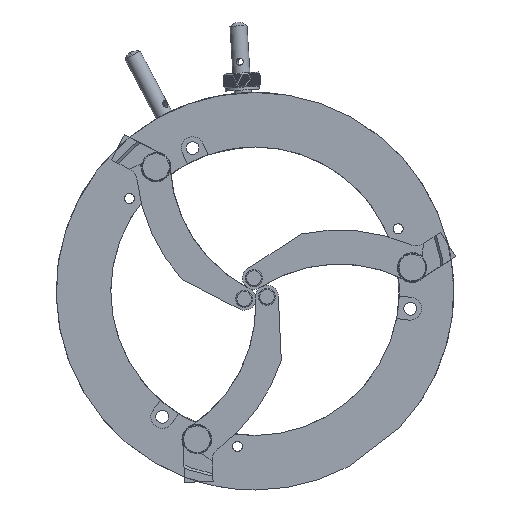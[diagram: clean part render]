
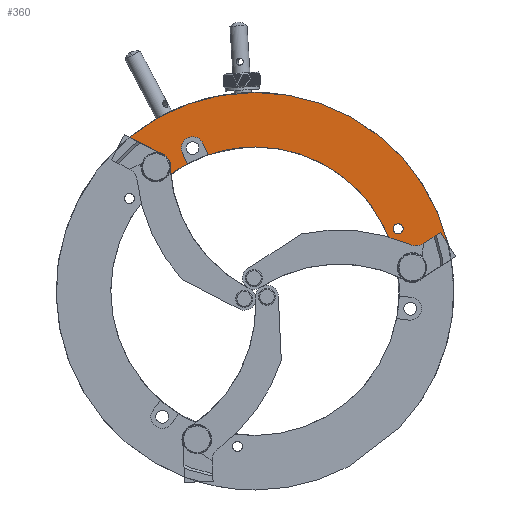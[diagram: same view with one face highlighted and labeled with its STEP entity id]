
A CAD part, left-side view. The second image highlights one B-rep face of the part: STEP entity #360.
In plain terms, the highlighted planar face has unit normal (-1, 0, 0).
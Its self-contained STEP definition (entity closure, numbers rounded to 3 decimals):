
#119 = EDGE_CURVE ( 'NONE', #510, #120, #1672, .T. ) ;
#120 = VERTEX_POINT ( 'NONE', #1662 ) ;
#130 = EDGE_CURVE ( 'NONE', #9196, #9184, #1660, .T. ) ;
#175 = VERTEX_POINT ( 'NONE', #1699 ) ;
#177 = EDGE_CURVE ( 'NONE', #9420, #175, #1698, .T. ) ;
#183 = EDGE_CURVE ( 'NONE', #120, #184, #2113, .T. ) ;
#184 = VERTEX_POINT ( 'NONE', #2109 ) ;
#325 = EDGE_LOOP ( 'NONE', ( #473, #474, #475, #476, #477, #638, #738, #733, #854, #348, #349, #350, #351, #352, #353 ) ) ;
#326 = EDGE_LOOP ( 'NONE', ( #327, #328 ) ) ;
#327 = ORIENTED_EDGE ( 'NONE', *, *, #9200, .T. ) ;
#328 = ORIENTED_EDGE ( 'NONE', *, *, #130, .T. ) ;
#340 = VERTEX_POINT ( 'NONE', #2469 ) ;
#342 = EDGE_CURVE ( 'NONE', #343, #340, #2468, .T. ) ;
#343 = VERTEX_POINT ( 'NONE', #2360 ) ;
#348 = ORIENTED_EDGE ( 'NONE', *, *, #362, .T. ) ;
#349 = ORIENTED_EDGE ( 'NONE', *, *, #512, .T. ) ;
#350 = ORIENTED_EDGE ( 'NONE', *, *, #119, .T. ) ;
#351 = ORIENTED_EDGE ( 'NONE', *, *, #183, .T. ) ;
#352 = ORIENTED_EDGE ( 'NONE', *, *, #562, .T. ) ;
#353 = ORIENTED_EDGE ( 'NONE', *, *, #9055, .T. ) ;
#360 = ADVANCED_FACE ( 'NONE', ( #2345, #2344 ), #2343, .T. ) ;
#362 = EDGE_CURVE ( 'NONE', #9157, #391, #2540, .T. ) ;
#367 = VERTEX_POINT ( 'NONE', #2531 ) ;
#371 = VERTEX_POINT ( 'NONE', #2557 ) ;
#380 = EDGE_CURVE ( 'NONE', #367, #343, #2546, .T. ) ;
#391 = VERTEX_POINT ( 'NONE', #2432 ) ;
#473 = ORIENTED_EDGE ( 'NONE', *, *, #558, .T. ) ;
#474 = ORIENTED_EDGE ( 'NONE', *, *, #380, .T. ) ;
#475 = ORIENTED_EDGE ( 'NONE', *, *, #342, .T. ) ;
#476 = ORIENTED_EDGE ( 'NONE', *, *, #580, .T. ) ;
#477 = ORIENTED_EDGE ( 'NONE', *, *, #478, .F. ) ;
#478 = EDGE_CURVE ( 'NONE', #9421, #371, #2335, .T. ) ;
#510 = VERTEX_POINT ( 'NONE', #2305 ) ;
#512 = EDGE_CURVE ( 'NONE', #391, #510, #2529, .T. ) ;
#513 = EDGE_CURVE ( 'NONE', #175, #9179, #2525, .T. ) ;
#558 = EDGE_CURVE ( 'NONE', #8963, #367, #2767, .T. ) ;
#562 = EDGE_CURVE ( 'NONE', #184, #9056, #2688, .T. ) ;
#580 = EDGE_CURVE ( 'NONE', #340, #371, #2736, .T. ) ;
#638 = ORIENTED_EDGE ( 'NONE', *, *, #9419, .F. ) ;
#733 = ORIENTED_EDGE ( 'NONE', *, *, #513, .T. ) ;
#738 = ORIENTED_EDGE ( 'NONE', *, *, #177, .T. ) ;
#854 = ORIENTED_EDGE ( 'NONE', *, *, #9172, .T. ) ;
#1613 = DIRECTION ( 'NONE',  ( 0., 0., 1. ) ) ;
#1614 = DIRECTION ( 'NONE',  ( 1., 0., 0. ) ) ;
#1615 = CARTESIAN_POINT ( 'NONE',  ( -16.059, -76.778, 21.991 ) ) ;
#1659 = AXIS2_PLACEMENT_3D ( 'NONE', #1615, #1614, #1613 ) ;
#1660 = CIRCLE ( 'NONE', #1659, 1.75 ) ;
#1662 = CARTESIAN_POINT ( 'NONE',  ( -16.059, -8.041, 52.012 ) ) ;
#1663 = DIRECTION ( 'NONE',  ( 0., 0., -1. ) ) ;
#1664 = DIRECTION ( 'NONE',  ( 1., 0., 0. ) ) ;
#1665 = CARTESIAN_POINT ( 'NONE',  ( -16.059, -4.375, 50.412 ) ) ;
#1666 = AXIS2_PLACEMENT_3D ( 'NONE', #1665, #1664, #1663 ) ;
#1672 = CIRCLE ( 'NONE', #1666, 4. ) ;
#1695 = DIRECTION ( 'NONE',  ( 0., -0.889, -0.459 ) ) ;
#1696 = VECTOR ( 'NONE', #1695, 1000. ) ;
#1697 = CARTESIAN_POINT ( 'NONE',  ( -16.059, 17.89, 54.235 ) ) ;
#1698 = LINE ( 'NONE', #1697, #1696 ) ;
#1699 = CARTESIAN_POINT ( 'NONE',  ( -16.059, 7.676, 48.962 ) ) ;
#2109 = CARTESIAN_POINT ( 'NONE',  ( -16.059, -9.784, 48.017 ) ) ;
#2110 = DIRECTION ( 'NONE',  ( 0., -0.4, -0.917 ) ) ;
#2111 = VECTOR ( 'NONE', #2110, 1000. ) ;
#2112 = CARTESIAN_POINT ( 'NONE',  ( -16.059, -8.041, 52.012 ) ) ;
#2113 = LINE ( 'NONE', #2112, #2111 ) ;
#2305 = CARTESIAN_POINT ( 'NONE',  ( -16.059, -0.708, 48.813 ) ) ;
#2331 = DIRECTION ( 'NONE',  ( 0., 0., -1. ) ) ;
#2332 = DIRECTION ( 'NONE',  ( 1., 0., 0. ) ) ;
#2333 = CARTESIAN_POINT ( 'NONE',  ( -16.059, -26.366, 0. ) ) ;
#2334 = AXIS2_PLACEMENT_3D ( 'NONE', #2333, #2332, #2331 ) ;
#2335 = CIRCLE ( 'NONE', #2334, 70. ) ;
#2341 = CARTESIAN_POINT ( 'NONE',  ( -16.059, -26.366, 0. ) ) ;
#2342 = AXIS2_PLACEMENT_3D ( 'NONE', #2341, #2542, #2541 ) ;
#2343 = PLANE ( 'NONE',  #2342 ) ;
#2344 = FACE_BOUND ( 'NONE', #326, .T. ) ;
#2345 = FACE_OUTER_BOUND ( 'NONE', #325, .T. ) ;
#2360 = CARTESIAN_POINT ( 'NONE',  ( -16.059, -85.681, 16.813 ) ) ;
#2361 = DIRECTION ( 'NONE',  ( 0., -0.842, 0.54 ) ) ;
#2362 = VECTOR ( 'NONE', #2361, 1000. ) ;
#2363 = CARTESIAN_POINT ( 'NONE',  ( -16.059, -85.681, 16.813 ) ) ;
#2432 = CARTESIAN_POINT ( 'NONE',  ( -16.059, -2.451, 44.819 ) ) ;
#2468 = LINE ( 'NONE', #2363, #2362 ) ;
#2469 = CARTESIAN_POINT ( 'NONE',  ( -16.059, -91.664, 20.653 ) ) ;
#2521 = DIRECTION ( 'NONE',  ( 0., -1., 0. ) ) ;
#2522 = DIRECTION ( 'NONE',  ( 1., 0., 0. ) ) ;
#2523 = CARTESIAN_POINT ( 'NONE',  ( -16.059, 8.547, 43.785 ) ) ;
#2524 = AXIS2_PLACEMENT_3D ( 'NONE', #2523, #2522, #2521 ) ;
#2525 = CIRCLE ( 'NONE', #2524, 5.25 ) ;
#2526 = DIRECTION ( 'NONE',  ( 0., 0.4, 0.917 ) ) ;
#2527 = VECTOR ( 'NONE', #2526, 1000. ) ;
#2528 = CARTESIAN_POINT ( 'NONE',  ( -16.059, -2.451, 44.819 ) ) ;
#2529 = LINE ( 'NONE', #2528, #2527 ) ;
#2531 = CARTESIAN_POINT ( 'NONE',  ( -16.059, -85.235, 12.261 ) ) ;
#2536 = DIRECTION ( 'NONE',  ( 0., 0., 1. ) ) ;
#2537 = DIRECTION ( 'NONE',  ( 1., 0., 0. ) ) ;
#2538 = CARTESIAN_POINT ( 'NONE',  ( -16.059, -26.366, 0. ) ) ;
#2539 = AXIS2_PLACEMENT_3D ( 'NONE', #2538, #2537, #2536 ) ;
#2540 = CIRCLE ( 'NONE', #2539, 50.8 ) ;
#2541 = DIRECTION ( 'NONE',  ( 0., 0., 1. ) ) ;
#2542 = DIRECTION ( 'NONE',  ( -1., 0., 0. ) ) ;
#2543 = DIRECTION ( 'NONE',  ( 0., -0.097, 0.995 ) ) ;
#2544 = VECTOR ( 'NONE', #2543, 1000. ) ;
#2545 = CARTESIAN_POINT ( 'NONE',  ( -16.059, -85.235, 12.261 ) ) ;
#2546 = LINE ( 'NONE', #2545, #2544 ) ;
#2557 = CARTESIAN_POINT ( 'NONE',  ( -16.059, -94.432, 16.34 ) ) ;
#2684 = DIRECTION ( 'NONE',  ( 0., 0., 1. ) ) ;
#2685 = DIRECTION ( 'NONE',  ( 1., 0., 0. ) ) ;
#2686 = CARTESIAN_POINT ( 'NONE',  ( -16.059, -26.366, 0. ) ) ;
#2687 = AXIS2_PLACEMENT_3D ( 'NONE', #2686, #2685, #2684 ) ;
#2688 = CIRCLE ( 'NONE', #2687, 50.8 ) ;
#2733 = DIRECTION ( 'NONE',  ( 0., -0.54, -0.842 ) ) ;
#2734 = VECTOR ( 'NONE', #2733, 1000. ) ;
#2735 = CARTESIAN_POINT ( 'NONE',  ( -16.059, -91.664, 20.653 ) ) ;
#2736 = LINE ( 'NONE', #2735, #2734 ) ;
#2763 = DIRECTION ( 'NONE',  ( 0., -1., 0. ) ) ;
#2764 = DIRECTION ( 'NONE',  ( 1., 0., 0. ) ) ;
#2765 = CARTESIAN_POINT ( 'NONE',  ( -16.059, -81.741, 8.343 ) ) ;
#2766 = AXIS2_PLACEMENT_3D ( 'NONE', #2765, #2764, #2763 ) ;
#2767 = CIRCLE ( 'NONE', #2766, 5.25 ) ;
#6407 = CARTESIAN_POINT ( 'NONE',  ( -16.059, -76.492, 8.248 ) ) ;
#6647 = CARTESIAN_POINT ( 'NONE',  ( -16.059, -26.366, 50.8 ) ) ;
#6648 = DIRECTION ( 'NONE',  ( 0., 0., 1. ) ) ;
#6649 = DIRECTION ( 'NONE',  ( 1., 0., 0. ) ) ;
#6650 = CARTESIAN_POINT ( 'NONE',  ( -16.059, -26.366, 0. ) ) ;
#6651 = AXIS2_PLACEMENT_3D ( 'NONE', #6650, #6649, #6648 ) ;
#6652 = CIRCLE ( 'NONE', #6651, 50.8 ) ;
#6820 = CARTESIAN_POINT ( 'NONE',  ( -16.059, 4.764, 40.145 ) ) ;
#6841 = CARTESIAN_POINT ( 'NONE',  ( -16.059, 3.297, 43.785 ) ) ;
#6854 = DIRECTION ( 'NONE',  ( 0., -1., 0. ) ) ;
#6855 = DIRECTION ( 'NONE',  ( 1., 0., 0. ) ) ;
#6856 = CARTESIAN_POINT ( 'NONE',  ( -16.059, 8.547, 43.785 ) ) ;
#6857 = AXIS2_PLACEMENT_3D ( 'NONE', #6856, #6855, #6854 ) ;
#6858 = CIRCLE ( 'NONE', #6857, 5.25 ) ;
#6892 = CARTESIAN_POINT ( 'NONE',  ( -16.059, -76.778, 23.741 ) ) ;
#6919 = DIRECTION ( 'NONE',  ( 0., 0., 1. ) ) ;
#6920 = DIRECTION ( 'NONE',  ( 1., 0., 0. ) ) ;
#6921 = CARTESIAN_POINT ( 'NONE',  ( -16.059, -76.778, 21.991 ) ) ;
#6922 = AXIS2_PLACEMENT_3D ( 'NONE', #6921, #6920, #6919 ) ;
#6923 = CIRCLE ( 'NONE', #6922, 1.75 ) ;
#6928 = CARTESIAN_POINT ( 'NONE',  ( -16.059, -76.778, 20.241 ) ) ;
#7371 = CARTESIAN_POINT ( 'NONE',  ( -16.059, 17.89, 54.235 ) ) ;
#7372 = DIRECTION ( 'NONE',  ( 0., 0., -1. ) ) ;
#7373 = DIRECTION ( 'NONE',  ( 1., 0., 0. ) ) ;
#7374 = CARTESIAN_POINT ( 'NONE',  ( -16.059, -26.366, 0. ) ) ;
#7375 = AXIS2_PLACEMENT_3D ( 'NONE', #7374, #7373, #7372 ) ;
#7376 = CIRCLE ( 'NONE', #7375, 70. ) ;
#7437 = CARTESIAN_POINT ( 'NONE',  ( -16.059, -26.366, 70. ) ) ;
#8963 = VERTEX_POINT ( 'NONE', #6407 ) ;
#9055 = EDGE_CURVE ( 'NONE', #9056, #8963, #6652, .T. ) ;
#9056 = VERTEX_POINT ( 'NONE', #6647 ) ;
#9157 = VERTEX_POINT ( 'NONE', #6820 ) ;
#9172 = EDGE_CURVE ( 'NONE', #9179, #9157, #6858, .T. ) ;
#9179 = VERTEX_POINT ( 'NONE', #6841 ) ;
#9184 = VERTEX_POINT ( 'NONE', #6892 ) ;
#9196 = VERTEX_POINT ( 'NONE', #6928 ) ;
#9200 = EDGE_CURVE ( 'NONE', #9184, #9196, #6923, .T. ) ;
#9419 = EDGE_CURVE ( 'NONE', #9420, #9421, #7376, .T. ) ;
#9420 = VERTEX_POINT ( 'NONE', #7371 ) ;
#9421 = VERTEX_POINT ( 'NONE', #7437 ) ;
